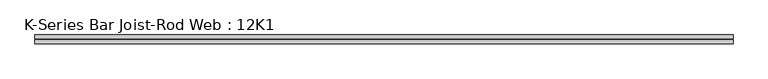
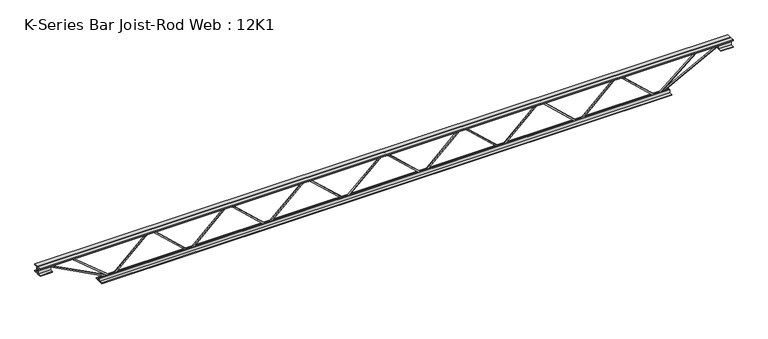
"""IFC4 building model written with IfcOpenShell, lengths in millimetres: beam geometry, K-Series Bar Joist-Rod Web : 12K1."""

from ifc_helpers import new_model, si_unit, frame, origin, place, context, project, spatial, polyline, outline, extrude, source, transform, mapped, element, save


def k_series_bar_joist_rod_web_12k1_a6bee375(model_context):
    return source(origin(), model_context, "Body", "SweptSolid", [
        extrude(outline(polyline([(-141.2875, 964.0660714), (-150.8125, 964.0660714), (-150.8125, 969.1093603), (141.2875, 1284.1147175), (141.2875, 1286.7281397), (-150.8125, 1601.7334968), (-150.8125, 1606.7767857), (-141.2875, 1606.7767857), (-141.2875, 1605.4700746), (150.8125, 1290.4647175), (150.8125, 1280.3781397), (-141.2875, 965.3727825), (-141.2875, 964.0660714)])), frame((0.0, -4.7625, 0.0), z_axis=(0.0, 1.0, 0.0), x_axis=(0.0, 0.0, 1.0)), (0.0, 0.0, 1.0), 9.525),
        extrude(outline(polyline([(-141.2875, 321.3553571), (-150.8125, 321.3553571), (-150.8125, 326.3986461), (141.2875, 641.4040032), (141.2875, 644.0174254), (-150.8125, 959.0227825), (-150.8125, 964.0660714), (-141.2875, 964.0660714), (-141.2875, 962.7593603), (150.8125, 647.7540032), (150.8125, 637.6674254), (-141.2875, 322.6620682), (-141.2875, 321.3553571)])), frame((0.0, -4.7625, 0.0), z_axis=(0.0, 1.0, 0.0), x_axis=(0.0, 0.0, 1.0)), (0.0, 0.0, 1.0), 9.525),
        extrude(outline(polyline([(-141.2875, -321.3553571), (-150.8125, -321.3553571), (-150.8125, -316.3120682), (141.2875, -1.3067111), (141.2875, 1.3067111), (-150.8125, 316.3120682), (-150.8125, 321.3553571), (-141.2875, 321.3553571), (-141.2875, 320.0486461), (150.8125, 5.0432889), (150.8125, -5.0432889), (-141.2875, -320.0486461), (-141.2875, -321.3553571)])), frame((0.0, -4.7625, 0.0), z_axis=(0.0, 1.0, 0.0), x_axis=(0.0, 0.0, 1.0)), (0.0, 0.0, 1.0), 9.525),
        extrude(outline(polyline([(-141.2875, -964.0660714), (-150.8125, -964.0660714), (-150.8125, -959.0227825), (141.2875, -644.0174254), (141.2875, -641.4040032), (-150.8125, -326.3986461), (-150.8125, -321.3553571), (-141.2875, -321.3553571), (-141.2875, -322.6620682), (150.8125, -637.6674254), (150.8125, -647.7540032), (-141.2875, -962.7593603), (-141.2875, -964.0660714)])), frame((0.0, -4.7625, 0.0), z_axis=(0.0, 1.0, 0.0), x_axis=(0.0, 0.0, 1.0)), (0.0, 0.0, 1.0), 9.525),
        extrude(outline(polyline([(-141.2875, -1606.7767857), (-150.8125, -1606.7767857), (-150.8125, -1601.7334968), (141.2875, -1286.7281397), (141.2875, -1284.1147175), (-150.8125, -969.1093603), (-150.8125, -964.0660714), (-141.2875, -964.0660714), (-141.2875, -965.3727825), (150.8125, -1280.3781397), (150.8125, -1290.4647175), (-141.2875, -1605.4700746), (-141.2875, -1606.7767857)])), frame((0.0, -4.7625, 0.0), z_axis=(0.0, 1.0, 0.0), x_axis=(0.0, 0.0, 1.0)), (0.0, 0.0, 1.0), 9.525),
        extrude(outline(polyline([(-141.2875, 1606.7767857), (-150.8125, 1606.7767857), (-150.8125, 1611.8200746), (141.2875, 1926.8254318), (141.2875, 1929.4388539), (-150.8125, 2244.4442111), (-150.8125, 2249.4875), (-141.2875, 2249.4875), (-141.2875, 2248.1807889), (150.8125, 1933.1754318), (150.8125, 1923.0888539), (-141.2875, 1608.0834968), (-141.2875, 1606.7767857)])), frame((0.0, -4.7625, 0.0), z_axis=(0.0, 1.0, 0.0), x_axis=(0.0, 0.0, 1.0)), (0.0, 0.0, 1.0), 9.525),
        extrude(outline(polyline([(-141.2875, -2249.4875), (-150.8125, -2249.4875), (-150.8125, -2244.4442111), (141.2875, -1929.4388539), (141.2875, -1926.8254318), (-150.8125, -1611.8200746), (-150.8125, -1606.7767857), (-141.2875, -1606.7767857), (-141.2875, -1608.0834968), (150.8125, -1923.0888539), (150.8125, -1933.1754318), (-141.2875, -2248.1807889), (-141.2875, -2249.4875)])), frame((0.0, -4.7625, 0.0), z_axis=(0.0, 1.0, 0.0), x_axis=(0.0, 0.0, 1.0)), (0.0, 0.0, 1.0), 9.525),
        extrude(outline(polyline([(4.7625, 152.4), (36.5125, 152.4), (36.5125, 146.05), (11.1125, 146.05), (11.1125, 120.65), (4.7625, 120.65), (4.7625, 152.4)])), frame((-2859.0875, 0.0, 0.0), z_axis=(1.0, 0.0, 0.0), x_axis=(0.0, 1.0, 0.0)), (0.0, 0.0, 1.0), 5718.175),
        extrude(outline(polyline([(-4.7625, 152.4), (-4.7625, 120.65), (-11.1125, 120.65), (-11.1125, 146.05), (-36.5125, 146.05), (-36.5125, 152.4), (-4.7625, 152.4)])), frame((-2859.0875, 0.0, 0.0), z_axis=(1.0, 0.0, 0.0), x_axis=(0.0, 1.0, 0.0)), (0.0, 0.0, 1.0), 5718.175),
        extrude(outline(polyline([(-4.7625, 88.9), (-36.5125, 88.9), (-36.5125, 95.25), (-11.1125, 95.25), (-11.1125, 120.65), (-4.7625, 120.65), (-4.7625, 88.9)])), frame((-2859.0875, 0.0, 0.0), z_axis=(1.0, 0.0, 0.0), x_axis=(0.0, 1.0, 0.0)), (0.0, 0.0, 1.0), 101.6),
        extrude(outline(polyline([(36.5125, 88.9), (4.7625, 88.9), (4.7625, 120.65), (11.1125, 120.65), (11.1125, 95.25), (36.5125, 95.25), (36.5125, 88.9)])), frame((-2859.0875, 0.0, 0.0), z_axis=(1.0, 0.0, 0.0), x_axis=(0.0, 1.0, 0.0)), (0.0, 0.0, 1.0), 101.6),
        extrude(outline(polyline([(4.7625, 88.9), (4.7625, 120.65), (11.1125, 120.65), (11.1125, 95.25), (36.5125, 95.25), (36.5125, 88.9), (4.7625, 88.9)])), frame((2757.4875, 0.0, 0.0), z_axis=(1.0, 0.0, 0.0), x_axis=(0.0, 1.0, 0.0)), (0.0, 0.0, 1.0), 101.6),
        extrude(outline(polyline([(-4.7625, 88.9), (-36.5125, 88.9), (-36.5125, 95.25), (-11.1125, 95.25), (-11.1125, 120.65), (-4.7625, 120.65), (-4.7625, 88.9)])), frame((2757.4875, 0.0, 0.0), z_axis=(1.0, 0.0, 0.0), x_axis=(0.0, 1.0, 0.0)), (0.0, 0.0, 1.0), 101.6),
        extrude(outline(polyline([(4.7625, -152.4), (4.7625, -120.65), (11.1125, -120.65), (11.1125, -146.05), (36.5125, -146.05), (36.5125, -152.4), (4.7625, -152.4)])), frame((-2351.0875, 0.0, 0.0), z_axis=(1.0, 0.0, 0.0), x_axis=(0.0, 1.0, 0.0)), (0.0, 0.0, 1.0), 4702.175),
        extrude(outline(polyline([(-4.7625, -152.4), (-36.5125, -152.4), (-36.5125, -146.05), (-11.1125, -146.05), (-11.1125, -120.65), (-4.7625, -120.65), (-4.7625, -152.4)])), frame((-2351.0875, 0.0, 0.0), z_axis=(1.0, 0.0, 0.0), x_axis=(0.0, 1.0, 0.0)), (0.0, 0.0, 1.0), 4702.175),
        extrude(outline(polyline([(0.0, -9.525), (0.0, 0.0), (573.7533355, 0.0), (573.7533355, -9.525), (0.0, -9.525)])), frame((-2759.7012714, 4.7625, 116.4332925), z_axis=(0.46483389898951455, 0.0, 0.8853979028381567), x_axis=(0.8853979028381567, 0.0, -0.46483389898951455)), (0.0, 0.0, 1.0), 9.525),
        extrude(outline(polyline([(0.0, -9.525), (0.0, 0.0), (417.610052, 0.0), (417.610052, -9.525), (0.0, -9.525)])), frame((-2573.8843518, 4.7625, 116.9852058), z_axis=(0.6386340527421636, 0.0, 0.7695105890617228), x_axis=(0.7695105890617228, 0.0, -0.6386340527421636)), (0.0, 0.0, 1.0), 9.525),
        extrude(outline(polyline([(0.0, -9.525), (0.0, 0.0), (573.7533355, 0.0), (573.7533355, -9.525), (0.0, -9.525)])), frame((2759.7012714, -4.7625, 116.4332925), z_axis=(-0.4648338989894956, 0.0, 0.8853979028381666), x_axis=(-0.8853979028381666, 0.0, -0.4648338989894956)), (0.0, 0.0, 1.0), 9.525),
        extrude(outline(polyline([(0.0, -9.525), (0.0, 0.0), (417.610052, 0.0), (417.610052, -9.525), (0.0, -9.525)])), frame((2573.8843518, -4.7625, 116.9852058), z_axis=(-0.6386340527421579, 0.0, 0.7695105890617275), x_axis=(-0.7695105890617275, 0.0, -0.6386340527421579)), (0.0, 0.0, 1.0), 9.525),
    ])


if __name__ == "__main__":
    model = new_model("IFC4")
    model_context = context("Model", 3, world=origin())
    ifc_project = project(units=[si_unit("LENGTHUNIT", "METRE", prefix="MILLI")], contexts=[model_context])
    site = spatial("IfcSite", under=ifc_project)
    building = spatial("IfcBuilding", under=site)
    placement = place(None, origin())
    k_series_bar_joist_rod_web_12k1_shape = k_series_bar_joist_rod_web_12k1_a6bee375(model_context)
    element("IfcBeam", 1, ObjectType="K-Series Bar Joist-Rod Web : 12K1", at=placement, inside=building, context=model_context, shape_type="MappedRepresentation", body=[
        mapped(k_series_bar_joist_rod_web_12k1_shape, transform((0.0, 0.0, 0.0), x_axis=(1.0, 0.0, 0.0), y_axis=(0.0, 1.0, 0.0), z_axis=(0.0, 0.0, 1.0))),
    ])
    save(model, "model.ifc")
